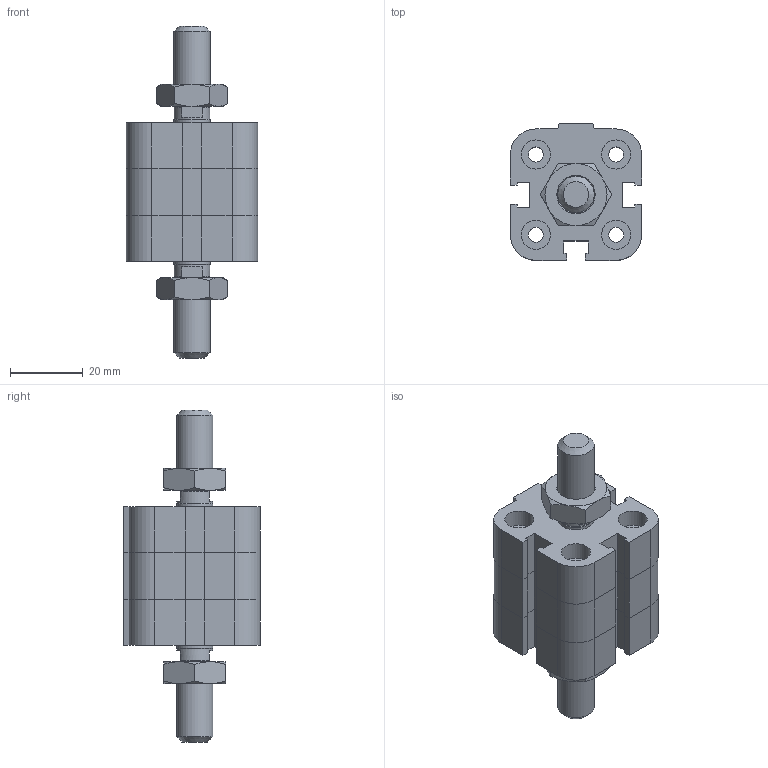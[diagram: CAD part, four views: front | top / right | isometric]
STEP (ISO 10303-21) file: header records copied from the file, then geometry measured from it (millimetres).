
FILE_DESCRIPTION((''),'2;1');
FILE_NAME('I:\Area Tecnica\Disegni\VARIE-3D\Componenti\EUROPE\15##_###_####_04_#\1581_20_0000_04_1.iam.stp','2009-04-20T14:49:40',(''),(''),'Autodesk Inventor 2009','Autodesk Inventor 2009','');
FILE_SCHEMA(('AUTOMOTIVE_DESIGN { 1 0 10303 214 1 1 1 1 }'));
Length unit declared in the file: millimetre
Products named in the file (4): 1581_20_0000_04_1; 1581_20_0000_03_1_C; 1561_20_0000_04_1_S; DBFM10
Assembly tree (4 placements, depth 2):
  1581_20_0000_04_1
    1581_20_0000_03_1_C
    1561_20_0000_04_1_S
    DBFM10  x2
Bounding box: 36 x 37.5 x 91 mm (x, y, z)
Volume: 47001.5 mm3; surface area: 17224.1 mm2
Topology: 4 solids, 4 shells, 210 faces, 463 edges, 273 vertices
Faces by surface type: plane 125, cone 35, bspline 29, cylinder 21
Full cylindrical faces by diameter (mm): 7.9 x1, 8 x4, 9.8 x2, 10 x2
Entity records: 5254 total; most frequent: CARTESIAN_POINT 1182, DIRECTION 770, ORIENTED_EDGE 756, EDGE_CURVE 378, VECTOR 258, LINE 258, AXIS2_PLACEMENT_3D 256, EDGE_LOOP 242
